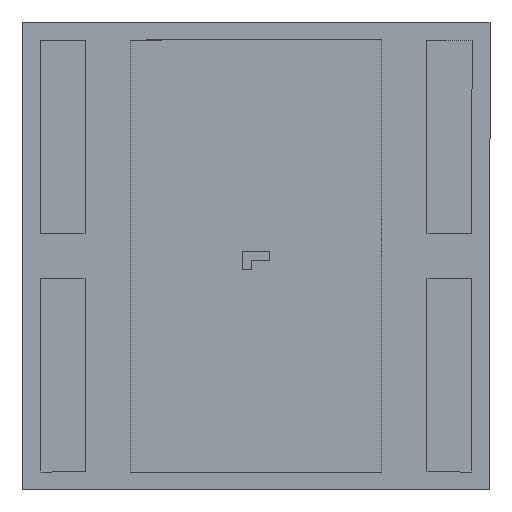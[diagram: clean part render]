
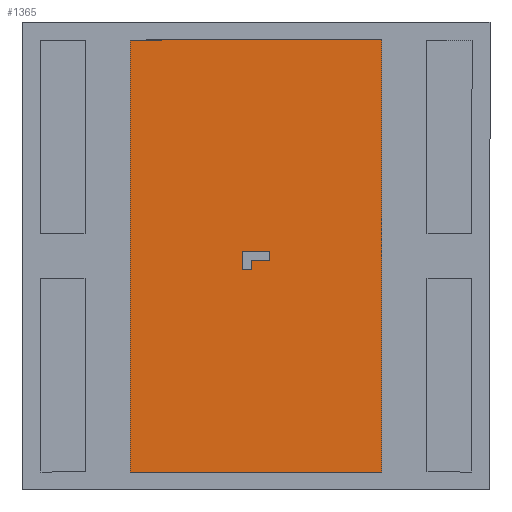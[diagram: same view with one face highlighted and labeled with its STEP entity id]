
A CAD part, front view. The second image highlights one B-rep face of the part: STEP entity #1365.
In plain terms, the highlighted planar face has unit normal (0, -1, 0).
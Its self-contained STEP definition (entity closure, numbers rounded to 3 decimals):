
#14 = DIRECTION ( 'NONE',  ( 0., 0., -1. ) ) ;
#22 = VECTOR ( 'NONE', #14, 1000. ) ;
#36 = CARTESIAN_POINT ( 'NONE',  ( -1.4, -0.065, 2.4 ) ) ;
#89 = FACE_BOUND ( 'NONE', #563, .T. ) ;
#148 = CARTESIAN_POINT ( 'NONE',  ( 0.15, -0.065, 0.05 ) ) ;
#167 = VECTOR ( 'NONE', #991, 1000. ) ;
#188 = VERTEX_POINT ( 'NONE', #327 ) ;
#197 = ORIENTED_EDGE ( 'NONE', *, *, #1222, .F. ) ;
#216 = VERTEX_POINT ( 'NONE', #1545 ) ;
#238 = LINE ( 'NONE', #448, #1138 ) ;
#250 = CARTESIAN_POINT ( 'NONE',  ( -0.15, -0.065, 0.05 ) ) ;
#274 = DIRECTION ( 'NONE',  ( 0., 0., -1. ) ) ;
#286 = ORIENTED_EDGE ( 'NONE', *, *, #1299, .F. ) ;
#291 = ORIENTED_EDGE ( 'NONE', *, *, #335, .F. ) ;
#312 = LINE ( 'NONE', #250, #828 ) ;
#327 = CARTESIAN_POINT ( 'NONE',  ( -0.05, -0.065, -0.15 ) ) ;
#335 = EDGE_CURVE ( 'NONE', #707, #1588, #1508, .T. ) ;
#354 = ORIENTED_EDGE ( 'NONE', *, *, #672, .T. ) ;
#357 = DIRECTION ( 'NONE',  ( 1., 0., 0. ) ) ;
#359 = LINE ( 'NONE', #486, #1338 ) ;
#393 = VERTEX_POINT ( 'NONE', #451 ) ;
#404 = EDGE_CURVE ( 'NONE', #1276, #675, #1265, .T. ) ;
#412 = ORIENTED_EDGE ( 'NONE', *, *, #404, .F. ) ;
#431 = VECTOR ( 'NONE', #1219, 1000. ) ;
#435 = EDGE_CURVE ( 'NONE', #188, #707, #1041, .T. ) ;
#448 = CARTESIAN_POINT ( 'NONE',  ( 0.15, -0.065, 0.05 ) ) ;
#451 = CARTESIAN_POINT ( 'NONE',  ( -1.4, -0.065, -2.4 ) ) ;
#454 = EDGE_CURVE ( 'NONE', #916, #216, #359, .T. ) ;
#486 = CARTESIAN_POINT ( 'NONE',  ( 1.4, -0.065, 2.4 ) ) ;
#530 = CARTESIAN_POINT ( 'NONE',  ( 1.4, -0.065, -2.4 ) ) ;
#536 = LINE ( 'NONE', #800, #1579 ) ;
#563 = EDGE_LOOP ( 'NONE', ( #1496, #197, #412, #286, #291, #979 ) ) ;
#587 = DIRECTION ( 'NONE',  ( 0., -1., 0. ) ) ;
#597 = ORIENTED_EDGE ( 'NONE', *, *, #1536, .T. ) ;
#666 = DIRECTION ( 'NONE',  ( 1., 0., 0. ) ) ;
#672 = EDGE_CURVE ( 'NONE', #393, #710, #1558, .T. ) ;
#675 = VERTEX_POINT ( 'NONE', #733 ) ;
#689 = ORIENTED_EDGE ( 'NONE', *, *, #454, .T. ) ;
#707 = VERTEX_POINT ( 'NONE', #1018 ) ;
#710 = VERTEX_POINT ( 'NONE', #530 ) ;
#722 = AXIS2_PLACEMENT_3D ( 'NONE', #1546, #587, #274 ) ;
#733 = CARTESIAN_POINT ( 'NONE',  ( -0.15, -0.065, 0.05 ) ) ;
#800 = CARTESIAN_POINT ( 'NONE',  ( -0.15, -0.065, -0.15 ) ) ;
#828 = VECTOR ( 'NONE', #1565, 1000. ) ;
#837 = VERTEX_POINT ( 'NONE', #1144 ) ;
#841 = CARTESIAN_POINT ( 'NONE',  ( 1.4, -0.065, 2.4 ) ) ;
#846 = CARTESIAN_POINT ( 'NONE',  ( -1.4, -0.065, -2.4 ) ) ;
#916 = VERTEX_POINT ( 'NONE', #1048 ) ;
#979 = ORIENTED_EDGE ( 'NONE', *, *, #435, .F. ) ;
#982 = CARTESIAN_POINT ( 'NONE',  ( 0.15, -0.065, -0.05 ) ) ;
#991 = DIRECTION ( 'NONE',  ( 1., 0., 0. ) ) ;
#1014 = LINE ( 'NONE', #841, #431 ) ;
#1018 = CARTESIAN_POINT ( 'NONE',  ( -0.05, -0.065, -0.05 ) ) ;
#1025 = VECTOR ( 'NONE', #1073, 1000. ) ;
#1041 = LINE ( 'NONE', #1226, #1439 ) ;
#1048 = CARTESIAN_POINT ( 'NONE',  ( 1.4, -0.065, 2.4 ) ) ;
#1073 = DIRECTION ( 'NONE',  ( -1., 0., 0. ) ) ;
#1074 = EDGE_CURVE ( 'NONE', #216, #393, #1305, .T. ) ;
#1104 = DIRECTION ( 'NONE',  ( -1., 0., 0. ) ) ;
#1134 = EDGE_CURVE ( 'NONE', #837, #188, #536, .T. ) ;
#1138 = VECTOR ( 'NONE', #1297, 1000. ) ;
#1144 = CARTESIAN_POINT ( 'NONE',  ( -0.15, -0.065, -0.15 ) ) ;
#1219 = DIRECTION ( 'NONE',  ( 0., 0., 1. ) ) ;
#1222 = EDGE_CURVE ( 'NONE', #675, #837, #312, .T. ) ;
#1226 = CARTESIAN_POINT ( 'NONE',  ( -0.05, -0.065, -0.05 ) ) ;
#1238 = PLANE ( 'NONE',  #722 ) ;
#1265 = LINE ( 'NONE', #1321, #1025 ) ;
#1276 = VERTEX_POINT ( 'NONE', #148 ) ;
#1294 = ORIENTED_EDGE ( 'NONE', *, *, #1074, .T. ) ;
#1297 = DIRECTION ( 'NONE',  ( 0., 0., 1. ) ) ;
#1299 = EDGE_CURVE ( 'NONE', #1588, #1276, #238, .T. ) ;
#1303 = CARTESIAN_POINT ( 'NONE',  ( -0.05, -0.065, -0.05 ) ) ;
#1305 = LINE ( 'NONE', #36, #22 ) ;
#1321 = CARTESIAN_POINT ( 'NONE',  ( -0.15, -0.065, 0.05 ) ) ;
#1338 = VECTOR ( 'NONE', #1104, 1000. ) ;
#1365 = ADVANCED_FACE ( 'NONE', ( #1484, #89 ), #1238, .T. ) ;
#1381 = EDGE_LOOP ( 'NONE', ( #1294, #354, #597, #689 ) ) ;
#1439 = VECTOR ( 'NONE', #1487, 1000. ) ;
#1484 = FACE_OUTER_BOUND ( 'NONE', #1381, .T. ) ;
#1487 = DIRECTION ( 'NONE',  ( 0., 0., 1. ) ) ;
#1496 = ORIENTED_EDGE ( 'NONE', *, *, #1134, .F. ) ;
#1508 = LINE ( 'NONE', #1303, #1532 ) ;
#1532 = VECTOR ( 'NONE', #357, 1000. ) ;
#1536 = EDGE_CURVE ( 'NONE', #710, #916, #1014, .T. ) ;
#1545 = CARTESIAN_POINT ( 'NONE',  ( -1.4, -0.065, 2.4 ) ) ;
#1546 = CARTESIAN_POINT ( 'NONE',  ( 0., -0.065, 0. ) ) ;
#1558 = LINE ( 'NONE', #846, #167 ) ;
#1565 = DIRECTION ( 'NONE',  ( 0., 0., -1. ) ) ;
#1579 = VECTOR ( 'NONE', #666, 1000. ) ;
#1588 = VERTEX_POINT ( 'NONE', #982 ) ;
